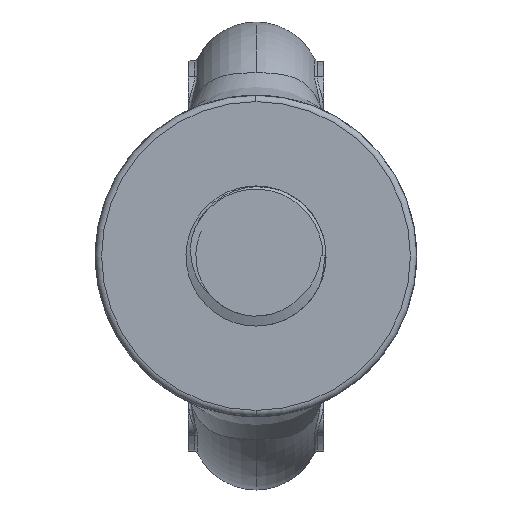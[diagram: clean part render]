
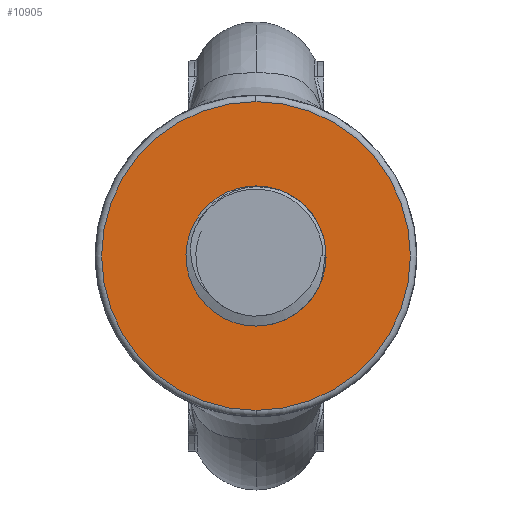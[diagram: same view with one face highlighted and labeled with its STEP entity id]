
A CAD part, left-side view. The second image highlights one B-rep face of the part: STEP entity #10905.
In plain terms, the highlighted planar face has unit normal (-1, 0, 0).
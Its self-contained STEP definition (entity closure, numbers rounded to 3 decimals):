
#2 = ORIENTED_EDGE ( 'NONE', *, *, #289, .T. ) ;
#105 = AXIS2_PLACEMENT_3D ( 'NONE', #14162, #14163, #14164 ) ;
#109 = AXIS2_PLACEMENT_3D ( 'NONE', #14415, #14416, #14417 ) ;
#289 = EDGE_CURVE ( 'NONE', #10011, #10017, #16853, .T. ) ;
#290 = EDGE_CURVE ( 'NONE', #12095, #12088, #16864, .T. ) ;
#363 = AXIS2_PLACEMENT_3D ( 'NONE', #19198, #19199, #19200 ) ;
#364 = AXIS2_PLACEMENT_3D ( 'NONE', #19201, #19202, #19203 ) ;
#573 = CARTESIAN_POINT ( 'NONE',  ( 0., 0., -21.1 ) ) ;
#579 = CARTESIAN_POINT ( 'NONE',  ( 0., 0., 21.1 ) ) ;
#4118 = CARTESIAN_POINT ( 'NONE',  ( 0., 0., 0. ) ) ;
#4121 = PLANE ( 'NONE',  #8300 ) ;
#4123 = DIRECTION ( 'NONE',  ( 1., 0., 0. ) ) ;
#4124 = DIRECTION ( 'NONE',  ( 0., 0., -1. ) ) ;
#8300 = AXIS2_PLACEMENT_3D ( 'NONE', #4118, #4123, #4124 ) ;
#9611 = CARTESIAN_POINT ( 'NONE',  ( 0., 0., 49. ) ) ;
#9630 = CARTESIAN_POINT ( 'NONE',  ( 0., 0., -49. ) ) ;
#10011 = VERTEX_POINT ( 'NONE', #573 ) ;
#10017 = VERTEX_POINT ( 'NONE', #579 ) ;
#10905 = ADVANCED_FACE ( 'NONE', ( #16009, #16015 ), #4121, .F. ) ;
#11273 = CIRCLE ( 'NONE', #105, 21.1 ) ;
#11276 = CIRCLE ( 'NONE', #109, 49. ) ;
#12088 = VERTEX_POINT ( 'NONE', #9611 ) ;
#12095 = VERTEX_POINT ( 'NONE', #9630 ) ;
#14162 = CARTESIAN_POINT ( 'NONE',  ( 0., 0., 0. ) ) ;
#14163 = DIRECTION ( 'NONE',  ( 1., 0., 0. ) ) ;
#14164 = DIRECTION ( 'NONE',  ( 0., 0., -1. ) ) ;
#14415 = CARTESIAN_POINT ( 'NONE',  ( 0., 0., 0. ) ) ;
#14416 = DIRECTION ( 'NONE',  ( -1., 0., 0. ) ) ;
#14417 = DIRECTION ( 'NONE',  ( 0., 0., -1. ) ) ;
#16009 = FACE_BOUND ( 'NONE', #17265, .T. ) ;
#16015 = FACE_OUTER_BOUND ( 'NONE', #17404, .T. ) ;
#16853 = CIRCLE ( 'NONE', #363, 21.1 ) ;
#16864 = CIRCLE ( 'NONE', #364, 49. ) ;
#17265 = EDGE_LOOP ( 'NONE', ( #2, #19462 ) ) ;
#17404 = EDGE_LOOP ( 'NONE', ( #19461, #19463 ) ) ;
#17671 = EDGE_CURVE ( 'NONE', #10017, #10011, #11273, .T. ) ;
#17675 = EDGE_CURVE ( 'NONE', #12088, #12095, #11276, .T. ) ;
#19198 = CARTESIAN_POINT ( 'NONE',  ( 0., 0., 0. ) ) ;
#19199 = DIRECTION ( 'NONE',  ( 1., 0., 0. ) ) ;
#19200 = DIRECTION ( 'NONE',  ( 0., 0., -1. ) ) ;
#19201 = CARTESIAN_POINT ( 'NONE',  ( 0., 0., 0. ) ) ;
#19202 = DIRECTION ( 'NONE',  ( -1., 0., 0. ) ) ;
#19203 = DIRECTION ( 'NONE',  ( 0., 0., -1. ) ) ;
#19461 = ORIENTED_EDGE ( 'NONE', *, *, #290, .T. ) ;
#19462 = ORIENTED_EDGE ( 'NONE', *, *, #17671, .T. ) ;
#19463 = ORIENTED_EDGE ( 'NONE', *, *, #17675, .T. ) ;
